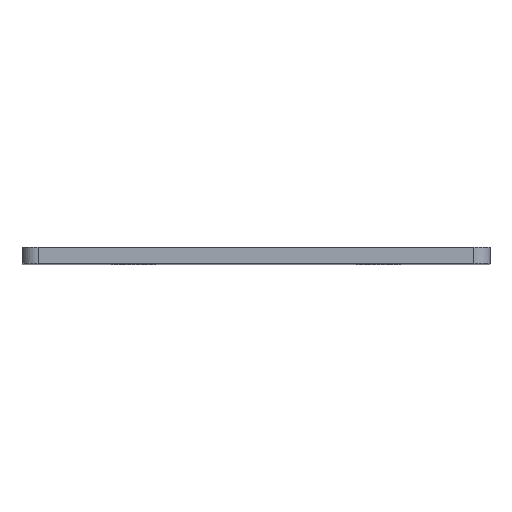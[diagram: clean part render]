
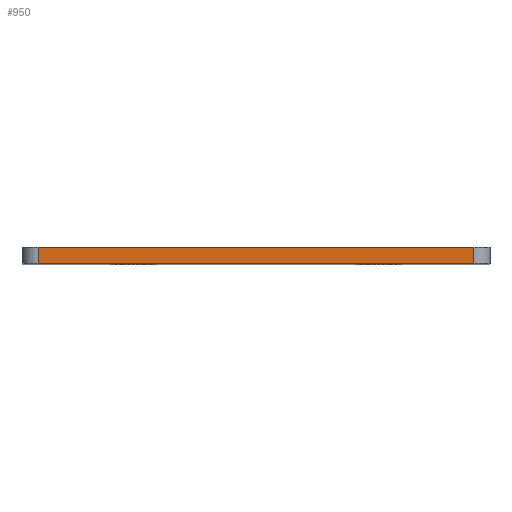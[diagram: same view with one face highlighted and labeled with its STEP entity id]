
A CAD part, top view. The second image highlights one B-rep face of the part: STEP entity #950.
In plain terms, the highlighted planar face has unit normal (0, 0, 1).
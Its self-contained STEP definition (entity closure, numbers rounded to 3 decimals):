
#41 = ORIENTED_EDGE ( 'NONE', *, *, #946, .T. ) ;
#68 = VECTOR ( 'NONE', #454, 1000. ) ;
#94 = CARTESIAN_POINT ( 'NONE',  ( -40., 0., 155.5 ) ) ;
#139 = DIRECTION ( 'NONE',  ( 1., 0., 0. ) ) ;
#140 = LINE ( 'NONE', #516, #490 ) ;
#161 = AXIS2_PLACEMENT_3D ( 'NONE', #448, #438, #139 ) ;
#192 = EDGE_CURVE ( 'NONE', #586, #279, #750, .T. ) ;
#275 = ORIENTED_EDGE ( 'NONE', *, *, #290, .T. ) ;
#279 = VERTEX_POINT ( 'NONE', #94 ) ;
#290 = EDGE_CURVE ( 'NONE', #299, #866, #306, .T. ) ;
#299 = VERTEX_POINT ( 'NONE', #387 ) ;
#306 = LINE ( 'NONE', #802, #634 ) ;
#387 = CARTESIAN_POINT ( 'NONE',  ( 40., 0., 155.5 ) ) ;
#434 = DIRECTION ( 'NONE',  ( 0., 1., 0. ) ) ;
#438 = DIRECTION ( 'NONE',  ( 0., 0., 1. ) ) ;
#448 = CARTESIAN_POINT ( 'NONE',  ( -43., 0., 155.5 ) ) ;
#454 = DIRECTION ( 'NONE',  ( 0., -1., 0. ) ) ;
#459 = DIRECTION ( 'NONE',  ( 1., 0., 0. ) ) ;
#490 = VECTOR ( 'NONE', #676, 1000. ) ;
#516 = CARTESIAN_POINT ( 'NONE',  ( -43., 0., 155.5 ) ) ;
#533 = ORIENTED_EDGE ( 'NONE', *, *, #632, .F. ) ;
#581 = EDGE_LOOP ( 'NONE', ( #41, #275, #533, #956 ) ) ;
#586 = VERTEX_POINT ( 'NONE', #836 ) ;
#605 = LINE ( 'NONE', #834, #922 ) ;
#632 = EDGE_CURVE ( 'NONE', #586, #866, #605, .T. ) ;
#634 = VECTOR ( 'NONE', #434, 1000. ) ;
#676 = DIRECTION ( 'NONE',  ( 1., 0., 0. ) ) ;
#691 = FACE_OUTER_BOUND ( 'NONE', #581, .T. ) ;
#692 = CARTESIAN_POINT ( 'NONE',  ( 40., 3., 155.5 ) ) ;
#750 = LINE ( 'NONE', #754, #68 ) ;
#754 = CARTESIAN_POINT ( 'NONE',  ( -40., 0., 155.5 ) ) ;
#802 = CARTESIAN_POINT ( 'NONE',  ( 40., 0., 155.5 ) ) ;
#834 = CARTESIAN_POINT ( 'NONE',  ( -43., 3., 155.5 ) ) ;
#836 = CARTESIAN_POINT ( 'NONE',  ( -40., 3., 155.5 ) ) ;
#866 = VERTEX_POINT ( 'NONE', #692 ) ;
#891 = PLANE ( 'NONE',  #161 ) ;
#922 = VECTOR ( 'NONE', #459, 1000. ) ;
#946 = EDGE_CURVE ( 'NONE', #279, #299, #140, .T. ) ;
#950 = ADVANCED_FACE ( 'NONE', ( #691 ), #891, .T. ) ;
#956 = ORIENTED_EDGE ( 'NONE', *, *, #192, .T. ) ;
